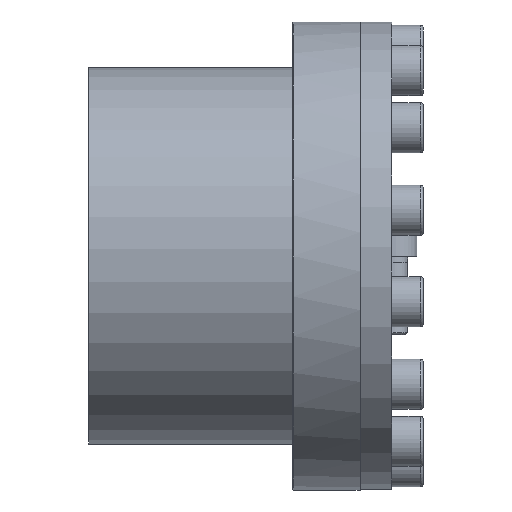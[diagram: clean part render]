
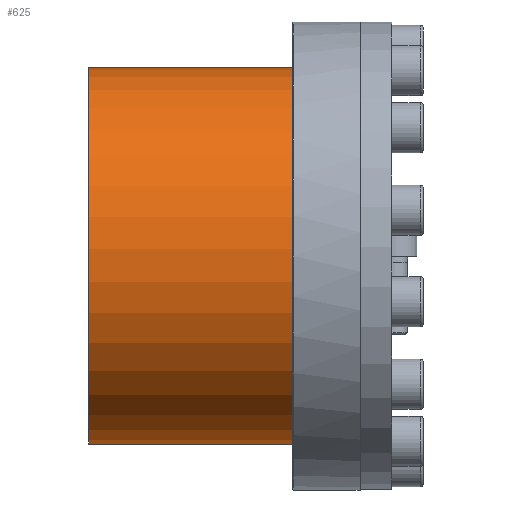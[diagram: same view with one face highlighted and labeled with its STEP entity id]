
A CAD part, left-side view. The second image highlights one B-rep face of the part: STEP entity #625.
In plain terms, the highlighted cylindrical face has radius 60 mm (diameter 120 mm), a partial arc.
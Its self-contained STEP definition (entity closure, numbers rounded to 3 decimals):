
#625 = ADVANCED_FACE( '', ( #1205 ), #1206, .T. );
#1205 = FACE_OUTER_BOUND( '', #2173, .T. );
#1206 = CYLINDRICAL_SURFACE( '', #2174, 60. );
#2173 = EDGE_LOOP( '', ( #3262, #3263, #3264, #3265 ) );
#2174 = AXIS2_PLACEMENT_3D( '', #3266, #3267, #3268 );
#3262 = ORIENTED_EDGE( '', *, *, #5389, .F. );
#3263 = ORIENTED_EDGE( '', *, *, #5427, .F. );
#3264 = ORIENTED_EDGE( '', *, *, #5400, .F. );
#3265 = ORIENTED_EDGE( '', *, *, #5440, .T. );
#3266 = CARTESIAN_POINT( '', ( 0., -60., 0. ) );
#3267 = DIRECTION( '', ( 0., 1., 0. ) );
#3268 = DIRECTION( '', ( 0., 0., -1. ) );
#5389 = EDGE_CURVE( '', #5996, #5998, #5999, .F. );
#5400 = EDGE_CURVE( '', #6012, #6014, #6015, .T. );
#5427 = EDGE_CURVE( '', #6014, #5996, #6062, .T. );
#5440 = EDGE_CURVE( '', #6012, #5998, #6087, .T. );
#5996 = VERTEX_POINT( '', #6903 );
#5998 = VERTEX_POINT( '', #6906 );
#5999 = LINE( '', #6907, #6908 );
#6012 = VERTEX_POINT( '', #6930 );
#6014 = VERTEX_POINT( '', #6933 );
#6015 = LINE( '', #6934, #6935 );
#6062 = CIRCLE( '', #6989, 60. );
#6087 = CIRCLE( '', #7014, 60. );
#6903 = CARTESIAN_POINT( '', ( 15.017, 31.5, 58.09 ) );
#6906 = CARTESIAN_POINT( '', ( 15.017, 96.5, 58.09 ) );
#6907 = CARTESIAN_POINT( '', ( 15.017, -60., 58.09 ) );
#6908 = VECTOR( '', #8553, 1000. );
#6930 = CARTESIAN_POINT( '', ( 11.675, 96.5, 58.853 ) );
#6933 = CARTESIAN_POINT( '', ( 11.675, 31.5, 58.853 ) );
#6934 = CARTESIAN_POINT( '', ( 11.675, -60., 58.853 ) );
#6935 = VECTOR( '', #8570, 1000. );
#6989 = AXIS2_PLACEMENT_3D( '', #8638, #8639, #8640 );
#7014 = AXIS2_PLACEMENT_3D( '', #8677, #8678, #8679 );
#8553 = DIRECTION( '', ( 0., -1., 0. ) );
#8570 = DIRECTION( '', ( 0., -1., 0. ) );
#8638 = CARTESIAN_POINT( '', ( 0., 31.5, 0. ) );
#8639 = DIRECTION( '', ( 0., -1., 0. ) );
#8640 = DIRECTION( '', ( 0., 0., -1. ) );
#8677 = CARTESIAN_POINT( '', ( 0., 96.5, 0. ) );
#8678 = DIRECTION( '', ( 0., -1., 0. ) );
#8679 = DIRECTION( '', ( 0., 0., -1. ) );
